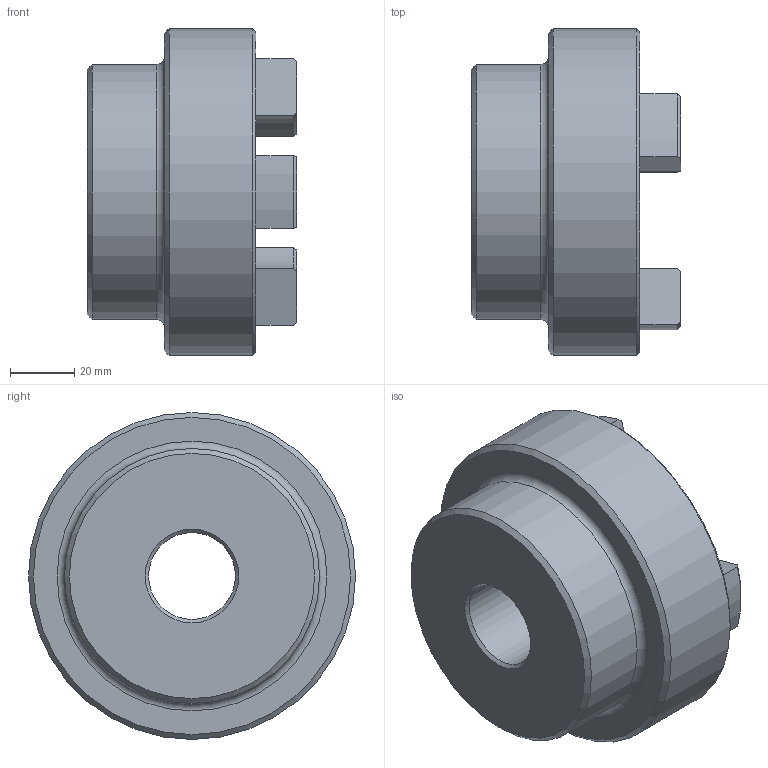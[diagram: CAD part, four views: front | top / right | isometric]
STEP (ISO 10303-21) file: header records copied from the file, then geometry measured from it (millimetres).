
FILE_DESCRIPTION (( 'STEP AP203' ), '1' );
FILE_NAME ('RC4.step', '2024-07-24T17:37:01', ( 'Adlan' ), ( '' ), 'SwSTEP 2.0', 'SolidWorks 2013', '' );
FILE_SCHEMA (( 'CONFIG_CONTROL_DESIGN' ));
Length unit declared in the file: inch
Products named in the file (1): RC4
Bounding box: 65.02 x 101.6 x 101.6 mm (x, y, z)
Volume: 259101.6 mm3; surface area: 40313.5 mm2
Topology: 1 solids, 1 shells, 60 faces, 146 edges, 90 vertices
Faces by surface type: cylinder 24, plane 13, torus 13, cone 10
Full cylindrical faces by diameter (mm): 27 x1, 79.248 x1, 101.6 x1
Entity records: 1841 total; most frequent: CARTESIAN_POINT 341, DIRECTION 324, ORIENTED_EDGE 274, EDGE_CURVE 137, AXIS2_PLACEMENT_3D 132, VERTEX_POINT 89, EDGE_LOOP 72, CIRCLE 71
